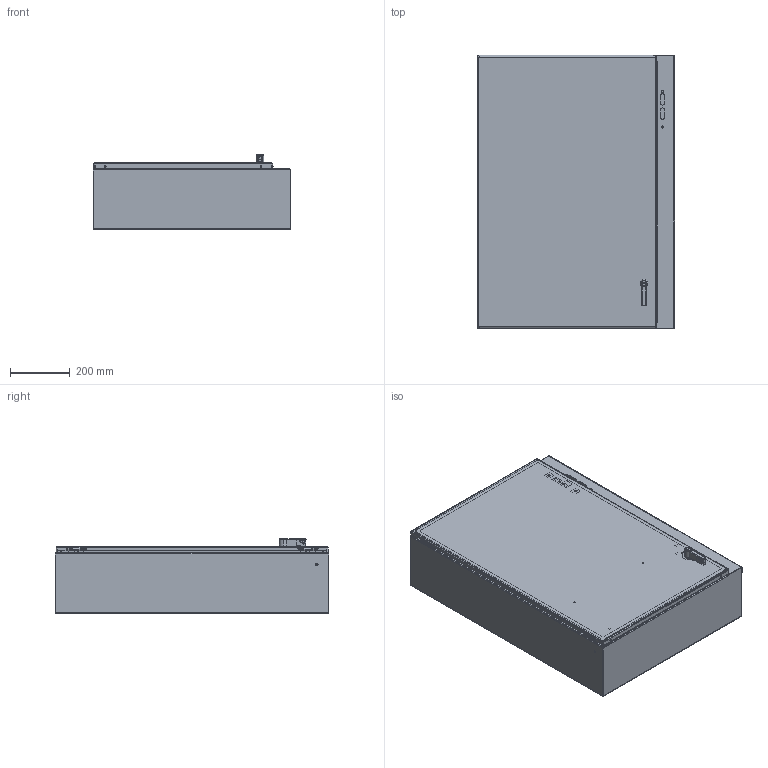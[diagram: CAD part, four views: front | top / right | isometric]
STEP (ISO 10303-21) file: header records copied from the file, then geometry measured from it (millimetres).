
FILE_DESCRIPTION (( 'STEP AP203' ), '1' );
FILE_NAME ('cdsc36268.STEP', '2020-02-14T14:31:03', ( '' ), ( '' ), 'SwSTEP 2.0', 'SolidWorks 2016', '' );
FILE_SCHEMA (( 'CONFIG_CONTROL_DESIGN' ));
Length unit declared in the file: inch
Products named in the file (38): 89131630; 87938375; 87932266; 99401225; 89076399; 87756325; 87415912_Locked; 64207001; cdsc36268; 89123196; 64208001; 99411834; 89076193; 89123200; 64206006; 89175157_89175157; 87541995; 89173484; 22101011; 64205001; 64157001_Locked; 89173485; 99411839_99411839; 87784879_CWHPTO; 99411612; 87540678; 64210001; 23271001_After Weld; 79410_LOCKED; 87938433; 87931362_87931362; 87543027; 87938395_assy; 64212004; 87938418_fip; 64144001; 89082727; 64103001
Assembly tree (55 placements, depth 5):
  cdsc36268
    89082727
      87756325
      23271001_After Weld  x6
      99401225
    87543027  x2
    89076399  x2
      89076193
      89131630
    87938395_assy
      87938418_fip
        87938375
        99401225  x3
        87931362_87931362  x2
      87415912_Locked
        64157001_Locked
          87540678
          64210001
          64208001
          64205001  x2
          87541995
          87932266
        64103001  x2
        64206006
        64207001
        99411834  x2
        64212004
        64144001
        99411612  x2
      87938433
      22101011  x2
      99411839_99411839  x2
      89173484
      89173485
      89175157_89175157  x2
    87784879_CWHPTO
      79410_LOCKED
    89123200
      89123196
Bounding box: 659.13 x 914.4 x 251.76 mm (x, y, z)
Volume: 3382359.9 mm3; surface area: 4197417.6 mm2
Topology: 51 solids, 51 shells, 3470 faces, 8991 edges, 5662 vertices
Faces by surface type: plane 1609, cylinder 979, bspline 530, torus 189, cone 107, sphere 56
Entity records: 93816 total; most frequent: CARTESIAN_POINT 33408, ORIENTED_EDGE 12266, DIRECTION 10630, EDGE_CURVE 6133, VERTEX_POINT 3891, AXIS2_PLACEMENT_3D 3558, VECTOR 3514, LINE 3514
